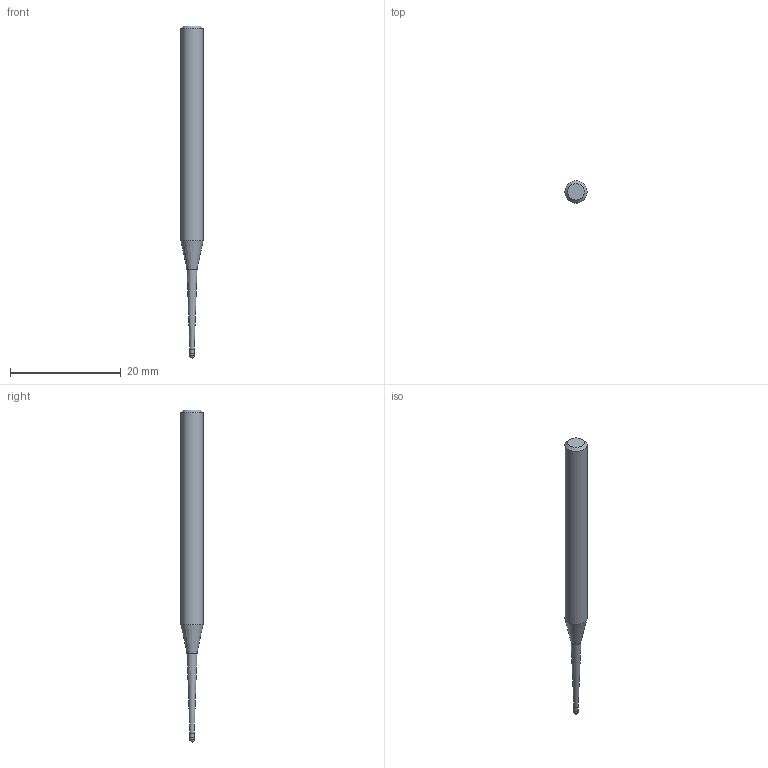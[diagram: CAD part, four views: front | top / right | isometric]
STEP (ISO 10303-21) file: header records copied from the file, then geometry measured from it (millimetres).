
FILE_DESCRIPTION((''),'2;1');
FILE_NAME('C:\Users\nsx150\AppData\Local\Temp\Mastercam 2021\SNAKH10GOD\TEMP.step','2021-10-21T13:31:59',(''),(''),'STEP Write','Mastercam 2021 ... CNC Software, Inc.','');
FILE_SCHEMA(('AUTOMOTIVE_DESIGN'));
Length unit declared in the file: millimetre
Products named in the file (1): None
Bounding box: 4 x 4 x 60 mm (x, y, z)
Volume: 543.3 mm3; surface area: 608.5 mm2
Topology: 2 solids, 2 shells, 10 faces, 16 edges, 9 vertices
Faces by surface type: plane 3, cylinder 3, cone 3, sphere 1
Full cylindrical faces by diameter (mm): 0.785 x1, 0.8 x1, 4 x1
Entity records: 232 total; most frequent: DIRECTION 40, CARTESIAN_POINT 28, AXIS2_PLACEMENT_3D 20, ORIENTED_EDGE 16, EDGE_LOOP 16, STYLED_ITEM 13, ADVANCED_FACE 10, FACE_BOUND 9
